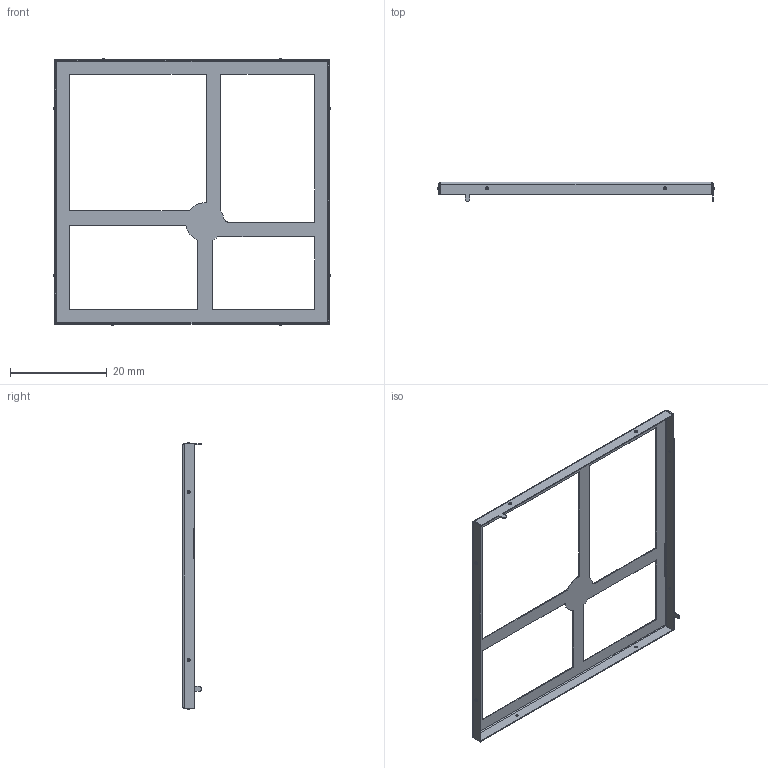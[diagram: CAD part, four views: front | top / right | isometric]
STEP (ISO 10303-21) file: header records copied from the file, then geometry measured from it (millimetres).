
FILE_DESCRIPTION((''),'2;1');
FILE_NAME('SHIELDING_FRAME_SOC','2020-08-11T',('G6003023'),(''),'PRO/ENGINEER BY PARAMETRIC TECHNOLOGY CORPORATION, 2013150','PRO/ENGINEER BY PARAMETRIC TECHNOLOGY CORPORATION, 2013150','');
FILE_SCHEMA(('CONFIG_CONTROL_DESIGN'));
Length unit declared in the file: millimetre
Products named in the file (1): SHIELDING_FRAME_SOC
Bounding box: 57.21 x 4 x 55.14 mm (x, y, z)
Volume: 283.9 mm3; surface area: 2961.4 mm2
Topology: 1 solids, 1 shells, 157 faces, 353 edges, 214 vertices
Faces by surface type: plane 71, bspline 52, cylinder 18, torus 16
Entity records: 5737 total; most frequent: CARTESIAN_POINT 2236, DIRECTION 751, ORIENTED_EDGE 706, EDGE_CURVE 353, AXIS2_PLACEMENT_3D 301, VERTEX_POINT 214, CIRCLE 196, EDGE_LOOP 181
